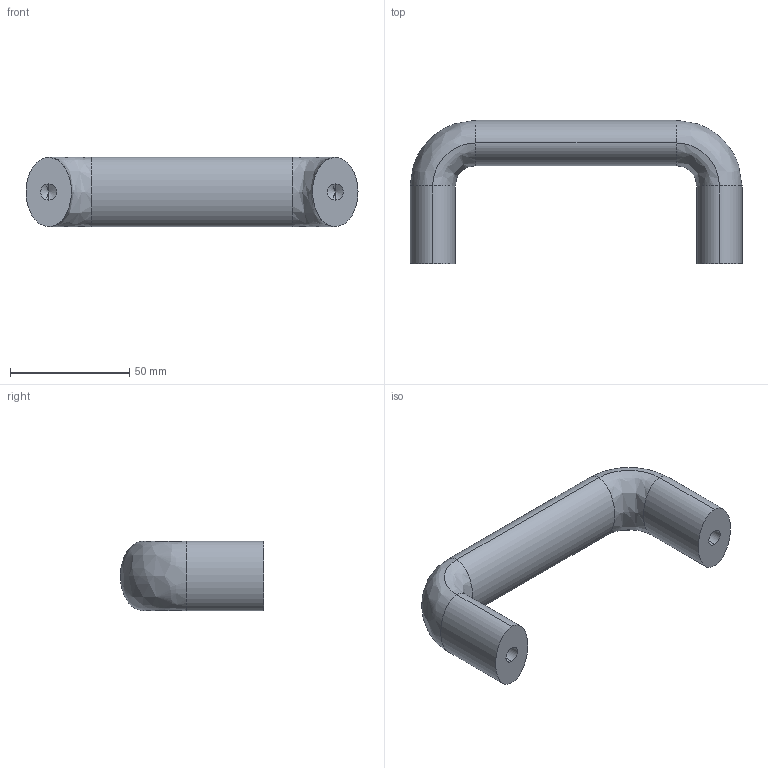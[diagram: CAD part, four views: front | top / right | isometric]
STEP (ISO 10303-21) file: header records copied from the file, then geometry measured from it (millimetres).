
FILE_DESCRIPTION (( 'STEP AP203' ), '1' );
FILE_NAME ('SK4-8017-2.STEP', '2018-11-02T05:34:04', ( 'admin' ), ( 'Microsoft' ), 'SwSTEP 2.0', 'SolidWorks 2015', '' );
FILE_SCHEMA (( 'CONFIG_CONTROL_DESIGN' ));
Length unit declared in the file: millimetre
Products named in the file (1): SK4-8017-2
Bounding box: 139 x 60 x 29 mm (x, y, z)
Volume: 87285.3 mm3; surface area: 17494.5 mm2
Topology: 1 solids, 1 shells, 20 faces, 42 edges, 22 vertices
Faces by surface type: bspline 10, cylinder 4, cone 4, plane 2
Entity records: 633 total; most frequent: CARTESIAN_POINT 219, ORIENTED_EDGE 76, DIRECTION 60, EDGE_CURVE 38, AXIS2_PLACEMENT_3D 23, EDGE_LOOP 22, VERTEX_POINT 22, FACE_OUTER_BOUND 20
